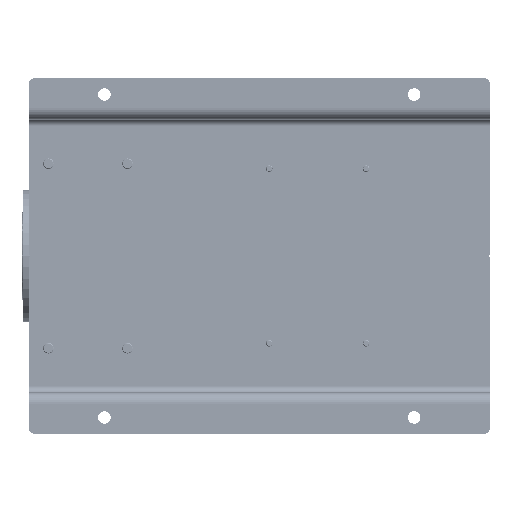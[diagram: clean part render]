
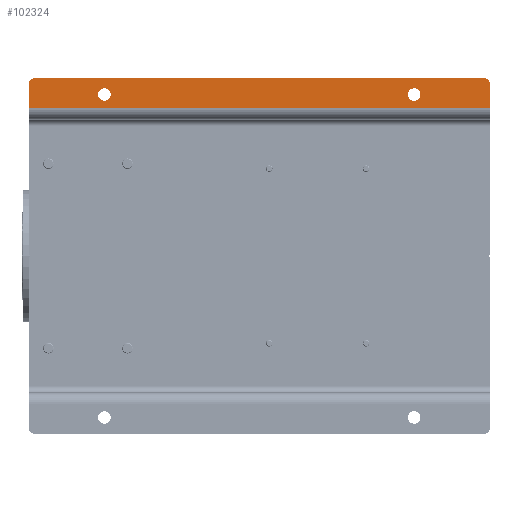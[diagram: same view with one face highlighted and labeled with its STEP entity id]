
A CAD part, front view. The second image highlights one B-rep face of the part: STEP entity #102324.
In plain terms, the highlighted planar face has unit normal (0, -1, 0).
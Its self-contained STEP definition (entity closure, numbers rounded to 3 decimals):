
#1446 = EDGE_CURVE ( 'NONE', #31659, #177523, #179200, .T. ) ;
#3565 = ORIENTED_EDGE ( 'NONE', *, *, #182630, .T. ) ;
#4556 = ORIENTED_EDGE ( 'NONE', *, *, #39446, .T. ) ;
#9813 = EDGE_CURVE ( 'NONE', #26640, #15939, #179592, .T. ) ;
#11096 = CARTESIAN_POINT ( 'NONE',  ( 515., 0., -115. ) ) ;
#12988 = LINE ( 'NONE', #64298, #78836 ) ;
#15925 = LINE ( 'NONE', #35955, #162568 ) ;
#15939 = VERTEX_POINT ( 'NONE', #39495 ) ;
#17106 = LINE ( 'NONE', #86282, #24568 ) ;
#17180 = VERTEX_POINT ( 'NONE', #214031 ) ;
#24303 = DIRECTION ( 'NONE',  ( 0., 0., -1. ) ) ;
#24568 = VECTOR ( 'NONE', #154284, 1000. ) ;
#25859 = CIRCLE ( 'NONE', #97030, 9.5 ) ;
#26640 = VERTEX_POINT ( 'NONE', #105685 ) ;
#28172 = ORIENTED_EDGE ( 'NONE', *, *, #214253, .T. ) ;
#31086 = AXIS2_PLACEMENT_3D ( 'NONE', #79699, #114239, #215792 ) ;
#31659 = VERTEX_POINT ( 'NONE', #138221 ) ;
#33343 = ORIENTED_EDGE ( 'NONE', *, *, #1446, .T. ) ;
#35095 = DIRECTION ( 'NONE',  ( 0., 0., -1. ) ) ;
#35955 = CARTESIAN_POINT ( 'NONE',  ( 477., 0., -700. ) ) ;
#39446 = EDGE_CURVE ( 'NONE', #177523, #31659, #158910, .T. ) ;
#39495 = CARTESIAN_POINT ( 'NONE',  ( 540., 0., -690. ) ) ;
#40938 = ORIENTED_EDGE ( 'NONE', *, *, #45435, .T. ) ;
#43503 = DIRECTION ( 'NONE',  ( 0., 0., -1. ) ) ;
#45435 = EDGE_CURVE ( 'NONE', #180479, #141718, #113096, .T. ) ;
#45736 = DIRECTION ( 'NONE',  ( 0., 1., 0. ) ) ;
#53467 = CARTESIAN_POINT ( 'NONE',  ( 515., 0., -115. ) ) ;
#60743 = PLANE ( 'NONE',  #31086 ) ;
#61063 = DIRECTION ( 'NONE',  ( 0., 1., 0. ) ) ;
#64298 = CARTESIAN_POINT ( 'NONE',  ( 540., 0., -700. ) ) ;
#65125 = FACE_OUTER_BOUND ( 'NONE', #158387, .T. ) ;
#66651 = AXIS2_PLACEMENT_3D ( 'NONE', #198540, #45736, #147249 ) ;
#67515 = CARTESIAN_POINT ( 'NONE',  ( 515., 0., -594.5 ) ) ;
#70834 = EDGE_CURVE ( 'NONE', #17180, #181833, #202016, .T. ) ;
#78081 = DIRECTION ( 'NONE',  ( 0., 1., 0. ) ) ;
#78836 = VECTOR ( 'NONE', #98891, 1000. ) ;
#79699 = CARTESIAN_POINT ( 'NONE',  ( 477., 0., -700. ) ) ;
#83834 = CARTESIAN_POINT ( 'NONE',  ( 530., 0., 0. ) ) ;
#86282 = CARTESIAN_POINT ( 'NONE',  ( 477., 0., 0. ) ) ;
#90221 = ORIENTED_EDGE ( 'NONE', *, *, #9813, .T. ) ;
#90282 = DIRECTION ( 'NONE',  ( 0., 0., -1. ) ) ;
#92466 = DIRECTION ( 'NONE',  ( 0., 1., 0. ) ) ;
#93797 = CARTESIAN_POINT ( 'NONE',  ( 540., 0., -10. ) ) ;
#94934 = AXIS2_PLACEMENT_3D ( 'NONE', #11096, #78081, #43503 ) ;
#96735 = ORIENTED_EDGE ( 'NONE', *, *, #105280, .F. ) ;
#97030 = AXIS2_PLACEMENT_3D ( 'NONE', #177109, #61063, #24303 ) ;
#98891 = DIRECTION ( 'NONE',  ( 0., 0., 1. ) ) ;
#100754 = CARTESIAN_POINT ( 'NONE',  ( 495., 0., -700. ) ) ;
#100861 = AXIS2_PLACEMENT_3D ( 'NONE', #53467, #92466, #90282 ) ;
#102324 = ADVANCED_FACE ( 'NONE', ( #181154, #147724, #65125 ), #60743, .T. ) ;
#105280 = EDGE_CURVE ( 'NONE', #180479, #110327, #17106, .T. ) ;
#105685 = CARTESIAN_POINT ( 'NONE',  ( 530., 0., -700. ) ) ;
#110327 = VERTEX_POINT ( 'NONE', #83834 ) ;
#113096 = LINE ( 'NONE', #100754, #123127 ) ;
#114239 = DIRECTION ( 'NONE',  ( 0., -1., 0. ) ) ;
#118767 = DIRECTION ( 'NONE',  ( 0., -1., 0. ) ) ;
#120963 = CARTESIAN_POINT ( 'NONE',  ( 530., 0., -10. ) ) ;
#123127 = VECTOR ( 'NONE', #201185, 1000. ) ;
#129676 = DIRECTION ( 'NONE',  ( 0., -1., 0. ) ) ;
#136895 = AXIS2_PLACEMENT_3D ( 'NONE', #160917, #129676, #177679 ) ;
#137473 = DIRECTION ( 'NONE',  ( 1., 0., 0. ) ) ;
#138221 = CARTESIAN_POINT ( 'NONE',  ( 515., 0., -105.5 ) ) ;
#140295 = ORIENTED_EDGE ( 'NONE', *, *, #70834, .T. ) ;
#141718 = VERTEX_POINT ( 'NONE', #146671 ) ;
#146671 = CARTESIAN_POINT ( 'NONE',  ( 495., 0., -700. ) ) ;
#146717 = VERTEX_POINT ( 'NONE', #93797 ) ;
#147249 = DIRECTION ( 'NONE',  ( 0., 0., -1. ) ) ;
#147724 = FACE_BOUND ( 'NONE', #207338, .T. ) ;
#150904 = AXIS2_PLACEMENT_3D ( 'NONE', #120963, #118767, #35095 ) ;
#154026 = EDGE_CURVE ( 'NONE', #141718, #26640, #15925, .T. ) ;
#154284 = DIRECTION ( 'NONE',  ( 1., 0., 0. ) ) ;
#158387 = EDGE_LOOP ( 'NONE', ( #96735, #40938, #167526, #90221, #3565, #197071 ) ) ;
#158910 = CIRCLE ( 'NONE', #94934, 9.5 ) ;
#160917 = CARTESIAN_POINT ( 'NONE',  ( 530., 0., -690. ) ) ;
#162568 = VECTOR ( 'NONE', #137473, 1000. ) ;
#167526 = ORIENTED_EDGE ( 'NONE', *, *, #154026, .T. ) ;
#177109 = CARTESIAN_POINT ( 'NONE',  ( 515., 0., -585. ) ) ;
#177523 = VERTEX_POINT ( 'NONE', #195267 ) ;
#177679 = DIRECTION ( 'NONE',  ( 0., 0., -1. ) ) ;
#179200 = CIRCLE ( 'NONE', #100861, 9.5 ) ;
#179592 = CIRCLE ( 'NONE', #136895, 10. ) ;
#180479 = VERTEX_POINT ( 'NONE', #186102 ) ;
#181154 = FACE_BOUND ( 'NONE', #210960, .T. ) ;
#181833 = VERTEX_POINT ( 'NONE', #67515 ) ;
#182630 = EDGE_CURVE ( 'NONE', #15939, #146717, #12988, .T. ) ;
#186102 = CARTESIAN_POINT ( 'NONE',  ( 495., 0., 0. ) ) ;
#189838 = EDGE_CURVE ( 'NONE', #146717, #110327, #211474, .T. ) ;
#195267 = CARTESIAN_POINT ( 'NONE',  ( 515., 0., -124.5 ) ) ;
#197071 = ORIENTED_EDGE ( 'NONE', *, *, #189838, .T. ) ;
#198540 = CARTESIAN_POINT ( 'NONE',  ( 515., 0., -585. ) ) ;
#201185 = DIRECTION ( 'NONE',  ( 0., 0., -1. ) ) ;
#202016 = CIRCLE ( 'NONE', #66651, 9.5 ) ;
#207338 = EDGE_LOOP ( 'NONE', ( #140295, #28172 ) ) ;
#210960 = EDGE_LOOP ( 'NONE', ( #33343, #4556 ) ) ;
#211474 = CIRCLE ( 'NONE', #150904, 10. ) ;
#214031 = CARTESIAN_POINT ( 'NONE',  ( 515., 0., -575.5 ) ) ;
#214253 = EDGE_CURVE ( 'NONE', #181833, #17180, #25859, .T. ) ;
#215792 = DIRECTION ( 'NONE',  ( 0., 0., -1. ) ) ;
